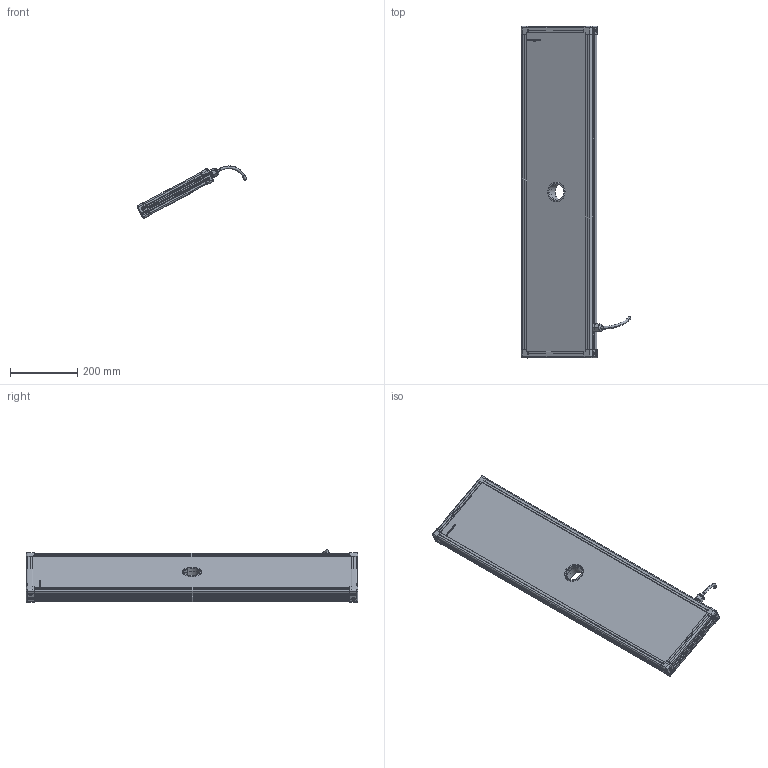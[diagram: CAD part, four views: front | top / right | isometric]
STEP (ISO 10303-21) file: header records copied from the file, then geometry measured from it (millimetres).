
FILE_DESCRIPTION (( 'STEP AP214' ), '1' );
FILE_NAME ('EFFI-BL-200-950-ZZZ-1M12P.STEP', '2021-06-21T08:19:41', ( '' ), ( '' ), 'SwSTEP 2.0', 'SolidWorks 2021', '' );
FILE_SCHEMA (( 'AUTOMOTIVE_DESIGN' ));
Length unit declared in the file: millimetre
Products named in the file (13): petite joue; 000629; profile Y_PERCE; profile X_PERCE; Assemblage Ø50; 001040; Pièce13^EFFI-BL-XXX-YYY-ZZZ (1 connecteur) M12POWER Ø50; 001039; EFFI-BL-200-950-ZZZ-1M12P; petite joue + vis; 000590; M12 power_AVEC CABLE D8.1
Assembly tree (19 placements, depth 3):
  EFFI-BL-200-950-ZZZ-1M12P
    profile X_PERCE  x2
    profile Y_PERCE
    profile Y_PERCE
    Pièce13^EFFI-BL-XXX-YYY-ZZZ (1 connecteur) M12POWER Ø50
    petite joue + vis  x4
      petite joue
      000629
    M12 power_AVEC CABLE D8.1
    Assemblage Ø50
      001039
      001040
      000590  x3
Bounding box: 326.69 x 989 x 155.49 mm (x, y, z)
Volume: 8078269.8 mm3; surface area: 860535.3 mm2
Topology: 22 solids, 25 shells, 3946 faces, 10510 edges, 6901 vertices
Faces by surface type: plane 2446, cylinder 718, bspline 591, cone 154, torus 29, sphere 8
Entity records: 55870 total; most frequent: CARTESIAN_POINT 22540, ORIENTED_EDGE 6994, DIRECTION 5720, EDGE_CURVE 3499, LINE 2454, VECTOR 2454, VERTEX_POINT 2302, AXIS2_PLACEMENT_3D 1633
